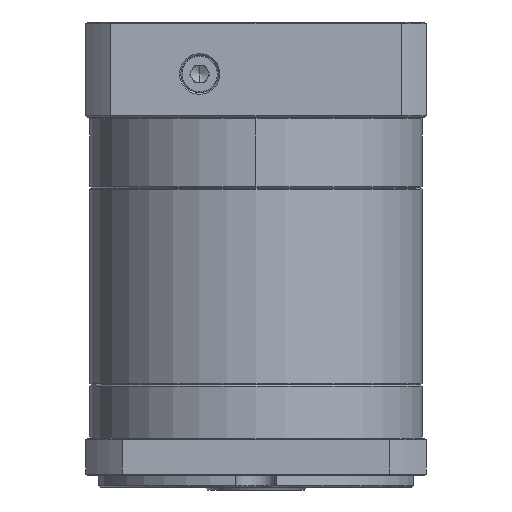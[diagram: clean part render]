
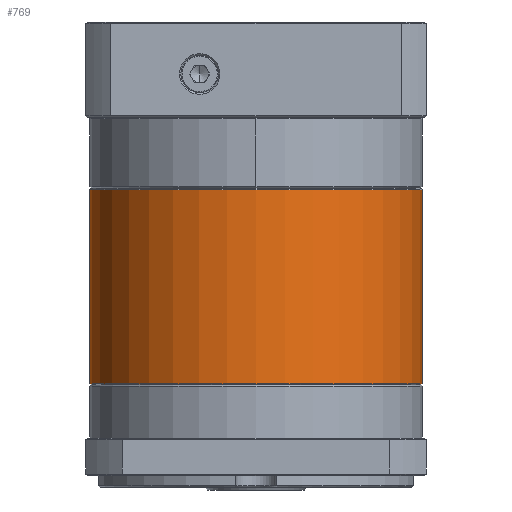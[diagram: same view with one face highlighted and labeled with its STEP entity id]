
A CAD part, front view. The second image highlights one B-rep face of the part: STEP entity #769.
In plain terms, the highlighted cylindrical face has radius 57.5 mm (diameter 115 mm), a partial arc.
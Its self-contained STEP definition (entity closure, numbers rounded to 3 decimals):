
#769 = ADVANCED_FACE ( 'NONE', ( #35404 ), #49185, .T. ) ;
#5305 = DIRECTION ( 'NONE',  ( 0., 0., -1. ) ) ;
#7960 = LINE ( 'NONE', #120006, #115167 ) ;
#9316 = DIRECTION ( 'NONE',  ( -1., 0., 0. ) ) ;
#12559 = EDGE_CURVE ( 'NONE', #112692, #75356, #7960, .T. ) ;
#15617 = VERTEX_POINT ( 'NONE', #39977 ) ;
#24570 = DIRECTION ( 'NONE',  ( -1., 0., 0. ) ) ;
#28642 = ORIENTED_EDGE ( 'NONE', *, *, #12559, .T. ) ;
#29615 = CARTESIAN_POINT ( 'NONE',  ( 25.467, -2.282, 188.502 ) ) ;
#29796 = EDGE_CURVE ( 'NONE', #66404, #15617, #33137, .T. ) ;
#33137 = CIRCLE ( 'NONE', #52980, 57.5 ) ;
#34644 = EDGE_CURVE ( 'NONE', #66404, #71534, #119807, .T. ) ;
#35404 = FACE_OUTER_BOUND ( 'NONE', #60650, .T. ) ;
#39977 = CARTESIAN_POINT ( 'NONE',  ( -32.033, -59.782, 188.502 ) ) ;
#42078 = CARTESIAN_POINT ( 'NONE',  ( 25.467, -2.282, 189.002 ) ) ;
#44057 = DIRECTION ( 'NONE',  ( -1., 0., 0. ) ) ;
#48743 = CARTESIAN_POINT ( 'NONE',  ( -32.033, -2.282, 188.502 ) ) ;
#49039 = CIRCLE ( 'NONE', #56464, 57.5 ) ;
#49185 = CYLINDRICAL_SURFACE ( 'NONE', #100865, 57.5 ) ;
#52980 = AXIS2_PLACEMENT_3D ( 'NONE', #48743, #126684, #9316 ) ;
#54101 = CIRCLE ( 'NONE', #105161, 57.5 ) ;
#55412 = ORIENTED_EDGE ( 'NONE', *, *, #56137, .T. ) ;
#56137 = EDGE_CURVE ( 'NONE', #75356, #71534, #54101, .T. ) ;
#56464 = AXIS2_PLACEMENT_3D ( 'NONE', #57907, #56675, #57507 ) ;
#56675 = DIRECTION ( 'NONE',  ( 0., 0., -1. ) ) ;
#57507 = DIRECTION ( 'NONE',  ( -1., 0., 0. ) ) ;
#57907 = CARTESIAN_POINT ( 'NONE',  ( -32.033, -2.282, 188.502 ) ) ;
#60188 = ORIENTED_EDGE ( 'NONE', *, *, #125178, .T. ) ;
#60650 = EDGE_LOOP ( 'NONE', ( #84001, #78795, #60188, #28642, #55412 ) ) ;
#63929 = CARTESIAN_POINT ( 'NONE',  ( -32.033, -2.282, 189.002 ) ) ;
#66404 = VERTEX_POINT ( 'NONE', #29615 ) ;
#69926 = DIRECTION ( 'NONE',  ( 0., 0., -1. ) ) ;
#71534 = VERTEX_POINT ( 'NONE', #121325 ) ;
#75356 = VERTEX_POINT ( 'NONE', #83685 ) ;
#78795 = ORIENTED_EDGE ( 'NONE', *, *, #29796, .T. ) ;
#83685 = CARTESIAN_POINT ( 'NONE',  ( -89.533, -2.282, 121.291 ) ) ;
#84001 = ORIENTED_EDGE ( 'NONE', *, *, #34644, .F. ) ;
#92126 = DIRECTION ( 'NONE',  ( 0., 0., -1. ) ) ;
#97111 = CARTESIAN_POINT ( 'NONE',  ( -32.033, -2.282, 121.291 ) ) ;
#100865 = AXIS2_PLACEMENT_3D ( 'NONE', #63929, #5305, #24570 ) ;
#105161 = AXIS2_PLACEMENT_3D ( 'NONE', #97111, #107732, #44057 ) ;
#107732 = DIRECTION ( 'NONE',  ( 0., 0., 1. ) ) ;
#111769 = CARTESIAN_POINT ( 'NONE',  ( -89.533, -2.282, 188.502 ) ) ;
#112692 = VERTEX_POINT ( 'NONE', #111769 ) ;
#115167 = VECTOR ( 'NONE', #69926, 1000. ) ;
#116742 = VECTOR ( 'NONE', #92126, 1000. ) ;
#119807 = LINE ( 'NONE', #42078, #116742 ) ;
#120006 = CARTESIAN_POINT ( 'NONE',  ( -89.533, -2.282, 189.002 ) ) ;
#121325 = CARTESIAN_POINT ( 'NONE',  ( 25.467, -2.282, 121.291 ) ) ;
#125178 = EDGE_CURVE ( 'NONE', #15617, #112692, #49039, .T. ) ;
#126684 = DIRECTION ( 'NONE',  ( 0., 0., -1. ) ) ;
